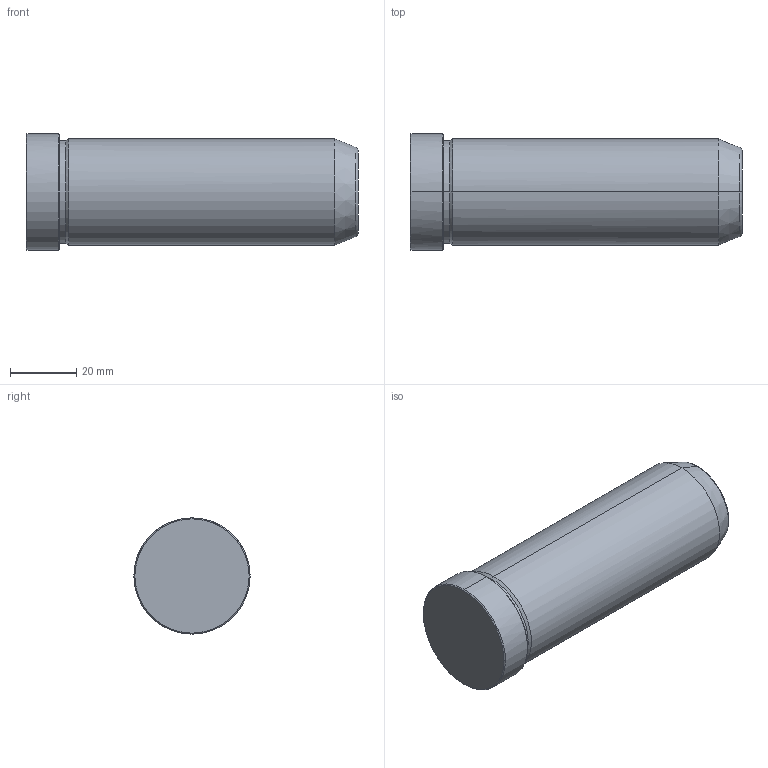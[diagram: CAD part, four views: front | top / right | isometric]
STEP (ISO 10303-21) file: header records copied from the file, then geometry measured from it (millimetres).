
FILE_DESCRIPTION(('CATIA V5 STEP Exchange'),'2;1');
FILE_NAME('C:\Users\Utente\Desktop\IO LAVORO\3D X SITO CF\X SITO\PLASTICA\549\549-32X100.stp','2021-12-18T08:09:33+00:00',('none'),('none'),'CATIA Version 5 Release 20 GA (IN-10)','CATIA V5 STEP AP203','none');
FILE_SCHEMA(('CONFIG_CONTROL_DESIGN'));
Length unit declared in the file: millimetre
Products named in the file (1): 549-32X100
Bounding box: 100 x 35 x 35 mm (x, y, z)
Volume: 80929.9 mm3; surface area: 11803.1 mm2
Topology: 1 solids, 1 shells, 19 faces, 56 edges, 40 vertices
Faces by surface type: cone 8, cylinder 6, plane 3, torus 2
Entity records: 736 total; most frequent: CARTESIAN_POINT 192, ORIENTED_EDGE 112, DIRECTION 86, EDGE_CURVE 56, AXIS2_PLACEMENT_3D 54, VERTEX_POINT 40, CIRCLE 34, EDGE_LOOP 20
